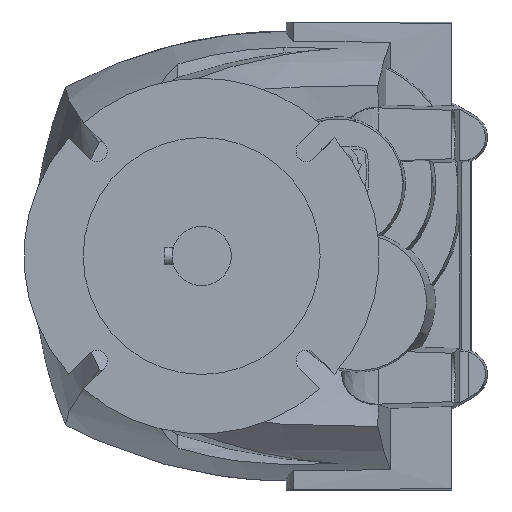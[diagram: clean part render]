
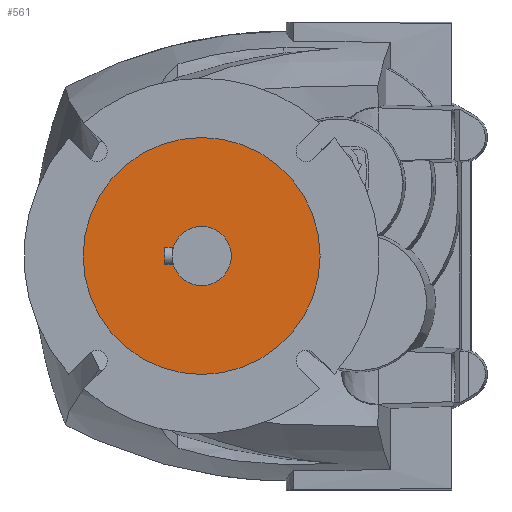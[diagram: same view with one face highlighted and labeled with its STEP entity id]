
A CAD part, left-side view. The second image highlights one B-rep face of the part: STEP entity #561.
In plain terms, the highlighted planar face has unit normal (-1, 0, 0).
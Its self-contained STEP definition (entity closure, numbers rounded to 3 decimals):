
#356 = EDGE_CURVE ( 'NONE', #1323, #1270, #16680, .T. ) ;
#357 = EDGE_CURVE ( 'NONE', #1294, #19632, #16683, .T. ) ;
#561 = ADVANCED_FACE ( 'NONE', ( #16986, #16989 ), #2098, .F. ) ;
#1270 = VERTEX_POINT ( 'NONE', #6025 ) ;
#1294 = VERTEX_POINT ( 'NONE', #6049 ) ;
#1323 = VERTEX_POINT ( 'NONE', #6078 ) ;
#1492 = DIRECTION ( 'NONE',  ( -1., 0., 0. ) ) ;
#1493 = CARTESIAN_POINT ( 'NONE',  ( -93., 0., 0. ) ) ;
#1500 = DIRECTION ( 'NONE',  ( -1., 0., 0. ) ) ;
#1502 = CARTESIAN_POINT ( 'NONE',  ( -93., 0., 0. ) ) ;
#1509 = DIRECTION ( 'NONE',  ( 0., 0., 1. ) ) ;
#1523 = DIRECTION ( 'NONE',  ( 0., 0., -1. ) ) ;
#2095 = CARTESIAN_POINT ( 'NONE',  ( -93., 36., 0. ) ) ;
#2098 = PLANE ( 'NONE',  #19452 ) ;
#2103 = DIRECTION ( 'NONE',  ( 1., 0., 0. ) ) ;
#2104 = DIRECTION ( 'NONE',  ( 0., 0., -1. ) ) ;
#3182 = AXIS2_PLACEMENT_3D ( 'NONE', #12133, #12134, #12135 ) ;
#3187 = AXIS2_PLACEMENT_3D ( 'NONE', #12157, #12158, #12159 ) ;
#6025 = CARTESIAN_POINT ( 'NONE',  ( -93., 0., 40. ) ) ;
#6049 = CARTESIAN_POINT ( 'NONE',  ( -93., 0., -10. ) ) ;
#6078 = CARTESIAN_POINT ( 'NONE',  ( -93., 0., -40. ) ) ;
#8080 = CIRCLE ( 'NONE', #3182, 10. ) ;
#8115 = CIRCLE ( 'NONE', #3187, 40. ) ;
#12133 = CARTESIAN_POINT ( 'NONE',  ( -93., 0., 0. ) ) ;
#12134 = DIRECTION ( 'NONE',  ( -1., 0., 0. ) ) ;
#12135 = DIRECTION ( 'NONE',  ( 0., 0., -1. ) ) ;
#12157 = CARTESIAN_POINT ( 'NONE',  ( -93., 0., 0. ) ) ;
#12158 = DIRECTION ( 'NONE',  ( -1., 0., 0. ) ) ;
#12159 = DIRECTION ( 'NONE',  ( 0., 0., 1. ) ) ;
#13164 = ORIENTED_EDGE ( 'NONE', *, *, #18764, .T. ) ;
#13167 = ORIENTED_EDGE ( 'NONE', *, *, #356, .T. ) ;
#13169 = ORIENTED_EDGE ( 'NONE', *, *, #18754, .F. ) ;
#13171 = ORIENTED_EDGE ( 'NONE', *, *, #357, .F. ) ;
#16058 = CARTESIAN_POINT ( 'NONE',  ( -93., 0., 10. ) ) ;
#16680 = CIRCLE ( 'NONE', #19284, 40. ) ;
#16683 = CIRCLE ( 'NONE', #19285, 10. ) ;
#16986 = FACE_OUTER_BOUND ( 'NONE', #21955, .T. ) ;
#16989 = FACE_BOUND ( 'NONE', #21964, .T. ) ;
#18754 = EDGE_CURVE ( 'NONE', #19632, #1294, #8080, .T. ) ;
#18764 = EDGE_CURVE ( 'NONE', #1270, #1323, #8115, .T. ) ;
#19284 = AXIS2_PLACEMENT_3D ( 'NONE', #1493, #1500, #1509 ) ;
#19285 = AXIS2_PLACEMENT_3D ( 'NONE', #1502, #1492, #1523 ) ;
#19452 = AXIS2_PLACEMENT_3D ( 'NONE', #2095, #2103, #2104 ) ;
#19632 = VERTEX_POINT ( 'NONE', #16058 ) ;
#21955 = EDGE_LOOP ( 'NONE', ( #13164, #13167 ) ) ;
#21964 = EDGE_LOOP ( 'NONE', ( #13169, #13171 ) ) ;
